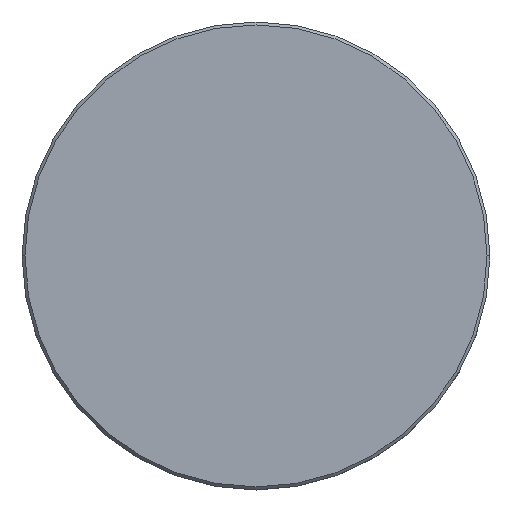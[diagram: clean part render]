
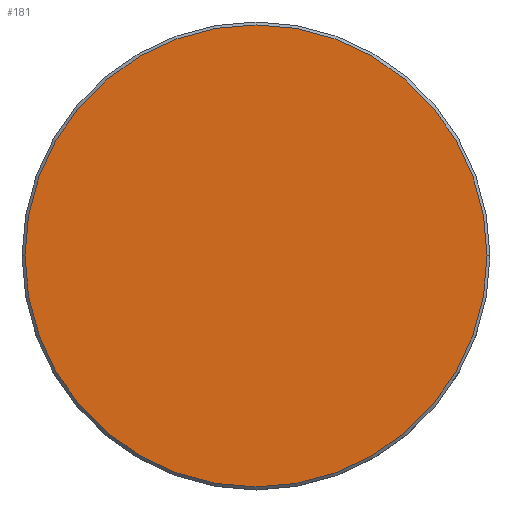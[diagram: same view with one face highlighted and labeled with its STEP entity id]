
A CAD part, top view. The second image highlights one B-rep face of the part: STEP entity #181.
In plain terms, the highlighted planar face has unit normal (0, 0, 1).
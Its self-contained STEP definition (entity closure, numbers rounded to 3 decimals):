
#47=CARTESIAN_POINT('',(0.,0.,0.));
#48=DIRECTION('',(0.,0.,1.));
#49=DIRECTION('',(1.,0.,0.));
#50=AXIS2_PLACEMENT_3D('',#47,#48,#49);
#52=CARTESIAN_POINT('',(0.,0.,0.));
#53=DIRECTION('',(0.,0.,1.));
#54=DIRECTION('',(-1.,0.,0.));
#55=AXIS2_PLACEMENT_3D('',#52,#53,#54);
#79=CARTESIAN_POINT('',(39.5,0.,0.));
#80=CARTESIAN_POINT('',(-39.5,0.,0.));
#81=VERTEX_POINT('',#79);
#82=VERTEX_POINT('',#80);
#171=CARTESIAN_POINT('',(0.,0.,0.));
#172=DIRECTION('',(0.,0.,1.));
#173=DIRECTION('',(1.,0.,0.));
#174=AXIS2_PLACEMENT_3D('',#171,#172,#173);
#175=PLANE('',#174);
#177=ORIENTED_EDGE('',*,*,#176,.F.);
#178=ORIENTED_EDGE('',*,*,#161,.F.);
#179=EDGE_LOOP('',(#177,#178));
#180=FACE_OUTER_BOUND('',#179,.F.);
#181=ADVANCED_FACE('',(#180),#175,.T.);
#51=CIRCLE('',#50,39.5);
#56=CIRCLE('',#55,39.5);
#161=EDGE_CURVE('',#82,#81,#56,.T.);
#176=EDGE_CURVE('',#81,#82,#51,.T.);
